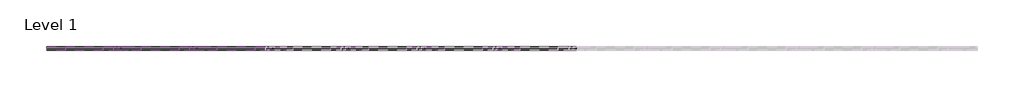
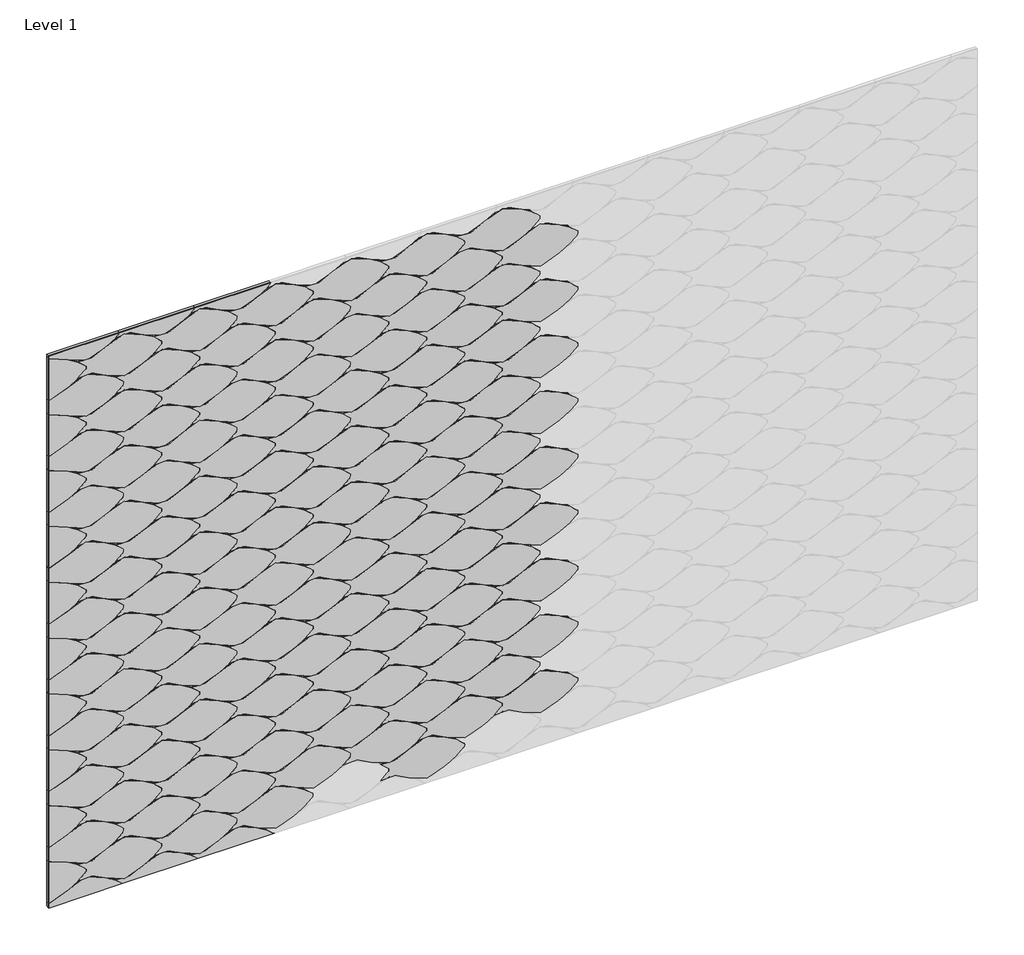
# One storey, part 1 of 2: 137 proxies.
"""IFC4 building model written with IfcOpenShell, lengths in millimetres."""

from ifc_helpers import new_model, si_unit, origin, place, context, project, spatial, transform, mapped, element, save
from components import specialty_equipment_90dfa3fd, specialty_equipment_1d68d449, specialty_equipment_25086a34, specialty_equipment_1cb976ee, specialty_equipment_e357aaf0, specialty_equipment_c87418b1, specialty_equipment_bcb07fab, specialty_equipment_795359a8, specialty_equipment_e3a5d67b, specialty_equipment_ba63f378

model = new_model("IFC4")

# Units and contexts
model_context = context("Model", 3, world=origin())
ifc_project = project(units=[si_unit("LENGTHUNIT", "METRE", prefix="MILLI")], contexts=[model_context])

# Site, building, storey
site = spatial("IfcSite", under=ifc_project)
building = spatial("IfcBuilding", under=site)
storey = spatial("IfcBuildingStorey", under=building, Name="Level 1", Elevation=0.0)

# Proxies
placement = place(None, origin())
specialty_equipment_shape = specialty_equipment_90dfa3fd(model_context)
element("IfcBuildingElementProxy", 1, Name="FilzFelt_Fish_Block : Fish Block", ObjectType="FilzFelt_Fish_Block : Fish Block", at=placement, inside=storey, context=model_context, shape_type="MappedRepresentation", body=[
    mapped(specialty_equipment_shape, transform((21496.6705507, 4010.4660665, 3013.3456503), x_axis=(0.0, 0.0, -1.0), y_axis=(1.0, 0.0, 0.0), z_axis=(0.0, -1.0, 0.0))),
])
element("IfcBuildingElementProxy", 2, Name="FilzFelt_Fish_Block : Fish Block", ObjectType="FilzFelt_Fish_Block : Fish Block", at=placement, inside=storey, context=model_context, shape_type="MappedRepresentation", body=[
    mapped(specialty_equipment_shape, transform((21222.2224976, 4010.4660665, 3013.3456503), x_axis=(0.0, 0.0, -1.0), y_axis=(1.0, 0.0, 0.0), z_axis=(0.0, -1.0, 0.0))),
])
element("IfcBuildingElementProxy", 3, Name="FilzFelt_Fish_Block : Fish Block", ObjectType="FilzFelt_Fish_Block : Fish Block", at=placement, inside=storey, context=model_context, shape_type="MappedRepresentation", body=[
    mapped(specialty_equipment_shape, transform((21359.4465242, 4010.4660665, 2906.2483588), x_axis=(0.0, 0.0, -1.0), y_axis=(1.0, 0.0, 0.0), z_axis=(0.0, -1.0, 0.0))),
])
element("IfcBuildingElementProxy", 4, Name="FilzFelt_Fish_Block : Fish Block", ObjectType="FilzFelt_Fish_Block : Fish Block", at=placement, inside=storey, context=model_context, shape_type="MappedRepresentation", body=[
    mapped(specialty_equipment_shape, transform((21771.1186039, 4010.4660665, 2370.7619017), x_axis=(0.0, 0.0, -1.0), y_axis=(1.0, 0.0, 0.0), z_axis=(0.0, -1.0, 0.0))),
])
element("IfcBuildingElementProxy", 5, Name="FilzFelt_Fish_Block : Fish Block", ObjectType="FilzFelt_Fish_Block : Fish Block", at=placement, inside=storey, context=model_context, shape_type="MappedRepresentation", body=[
    mapped(specialty_equipment_shape, transform((21908.3426305, 4010.4660665, 2477.8591932), x_axis=(0.0, 0.0, -1.0), y_axis=(1.0, 0.0, 0.0), z_axis=(0.0, -1.0, 0.0))),
])
element("IfcBuildingElementProxy", 6, Name="FilzFelt_Fish_Block : Fish Block", ObjectType="FilzFelt_Fish_Block : Fish Block", at=placement, inside=storey, context=model_context, shape_type="MappedRepresentation", body=[
    mapped(specialty_equipment_shape, transform((20536.1023647, 4010.4660665, 2477.8591932), x_axis=(0.0, 0.0, -1.0), y_axis=(1.0, 0.0, 0.0), z_axis=(0.0, -1.0, 0.0))),
])
element("IfcBuildingElementProxy", 7, Name="FilzFelt_Fish_Block : Fish Block", ObjectType="FilzFelt_Fish_Block : Fish Block", at=placement, inside=storey, context=model_context, shape_type="MappedRepresentation", body=[
    mapped(specialty_equipment_shape, transform((21496.6705507, 4010.4660665, 1513.9835704), x_axis=(0.0, 0.0, -1.0), y_axis=(1.0, 0.0, 0.0), z_axis=(0.0, -1.0, 0.0))),
])
element("IfcBuildingElementProxy", 8, Name="FilzFelt_Fish_Block : Fish Block", ObjectType="FilzFelt_Fish_Block : Fish Block", at=placement, inside=storey, context=model_context, shape_type="MappedRepresentation", body=[
    mapped(specialty_equipment_shape, transform((21222.2224976, 4010.4660665, 1513.9835704), x_axis=(0.0, 0.0, -1.0), y_axis=(1.0, 0.0, 0.0), z_axis=(0.0, -1.0, 0.0))),
])
element("IfcBuildingElementProxy", 9, Name="FilzFelt_Fish_Block : Fish Block", ObjectType="FilzFelt_Fish_Block : Fish Block", at=placement, inside=storey, context=model_context, shape_type="MappedRepresentation", body=[
    mapped(specialty_equipment_shape, transform((20947.7744444, 4010.4660665, 1513.9835704), x_axis=(0.0, 0.0, -1.0), y_axis=(1.0, 0.0, 0.0), z_axis=(0.0, -1.0, 0.0))),
])
element("IfcBuildingElementProxy", 10, Name="FilzFelt_Fish_Block : Fish Block", ObjectType="FilzFelt_Fish_Block : Fish Block", at=placement, inside=storey, context=model_context, shape_type="MappedRepresentation", body=[
    mapped(specialty_equipment_shape, transform((21084.998471, 4010.4660665, 2049.4700275), x_axis=(0.0, 0.0, -1.0), y_axis=(1.0, 0.0, 0.0), z_axis=(0.0, -1.0, 0.0))),
])
element("IfcBuildingElementProxy", 11, Name="FilzFelt_Fish_Block : Fish Block", ObjectType="FilzFelt_Fish_Block : Fish Block", at=placement, inside=storey, context=model_context, shape_type="MappedRepresentation", body=[
    mapped(specialty_equipment_shape, transform((20810.5504178, 4010.4660665, 2049.4700275), x_axis=(0.0, 0.0, -1.0), y_axis=(1.0, 0.0, 0.0), z_axis=(0.0, -1.0, 0.0))),
])
element("IfcBuildingElementProxy", 12, Name="FilzFelt_Fish_Block : Fish Block", ObjectType="FilzFelt_Fish_Block : Fish Block", at=placement, inside=storey, context=model_context, shape_type="MappedRepresentation", body=[
    mapped(specialty_equipment_shape, transform((20536.1023647, 4010.4660665, 2049.4700275), x_axis=(0.0, 0.0, -1.0), y_axis=(1.0, 0.0, 0.0), z_axis=(0.0, -1.0, 0.0))),
])
element("IfcBuildingElementProxy", 13, Name="FilzFelt_Fish_Block : Fish Block", ObjectType="FilzFelt_Fish_Block : Fish Block", at=placement, inside=storey, context=model_context, shape_type="MappedRepresentation", body=[
    mapped(specialty_equipment_shape, transform((21633.8945773, 4010.4660665, 1192.6916961), x_axis=(0.0, 0.0, -1.0), y_axis=(1.0, 0.0, 0.0), z_axis=(0.0, -1.0, 0.0))),
])
element("IfcBuildingElementProxy", 14, Name="FilzFelt_Fish_Block : Fish Block", ObjectType="FilzFelt_Fish_Block : Fish Block", at=placement, inside=storey, context=model_context, shape_type="MappedRepresentation", body=[
    mapped(specialty_equipment_shape, transform((21359.4465242, 4010.4660665, 1192.6916961), x_axis=(0.0, 0.0, -1.0), y_axis=(1.0, 0.0, 0.0), z_axis=(0.0, -1.0, 0.0))),
])
specialty_equipment_2_shape = specialty_equipment_1d68d449(model_context)
element("IfcBuildingElementProxy", 15, Name="FilzFelt_Fish_Block : Fish Block", ObjectType="FilzFelt_Fish_Block : Fish Block", at=placement, inside=storey, context=model_context, shape_type="MappedRepresentation", body=[
    mapped(specialty_equipment_2_shape, transform((21222.2224976, 4010.4660665, 2799.1510674), x_axis=(0.0, 0.0, 1.0), y_axis=(-1.0, 0.0, 0.0), z_axis=(0.0, -1.0, 0.0))),
])
element("IfcBuildingElementProxy", 16, Name="FilzFelt_Fish_Block : Fish Block", ObjectType="FilzFelt_Fish_Block : Fish Block", at=placement, inside=storey, context=model_context, shape_type="MappedRepresentation", body=[
    mapped(specialty_equipment_2_shape, transform((20398.8783381, 4010.4660665, 2584.9564846), x_axis=(0.0, 0.0, 1.0), y_axis=(-1.0, 0.0, 0.0), z_axis=(0.0, -1.0, 0.0))),
])
element("IfcBuildingElementProxy", 17, Name="FilzFelt_Fish_Block : Fish Block", ObjectType="FilzFelt_Fish_Block : Fish Block", at=placement, inside=storey, context=model_context, shape_type="MappedRepresentation", body=[
    mapped(specialty_equipment_2_shape, transform((20673.3263913, 4010.4660665, 2584.9564846), x_axis=(0.0, 0.0, 1.0), y_axis=(-1.0, 0.0, 0.0), z_axis=(0.0, -1.0, 0.0))),
])
element("IfcBuildingElementProxy", 18, Name="FilzFelt_Fish_Block : Fish Block", ObjectType="FilzFelt_Fish_Block : Fish Block", at=placement, inside=storey, context=model_context, shape_type="MappedRepresentation", body=[
    mapped(specialty_equipment_2_shape, transform((21359.4465242, 4010.4660665, 2692.053776), x_axis=(0.0, 0.0, 1.0), y_axis=(-1.0, 0.0, 0.0), z_axis=(0.0, -1.0, 0.0))),
])
element("IfcBuildingElementProxy", 19, Name="FilzFelt_Fish_Block : Fish Block", ObjectType="FilzFelt_Fish_Block : Fish Block", at=placement, inside=storey, context=model_context, shape_type="MappedRepresentation", body=[
    mapped(specialty_equipment_2_shape, transform((21771.1186039, 4010.4660665, 2156.5673189), x_axis=(0.0, 0.0, 1.0), y_axis=(-1.0, 0.0, 0.0), z_axis=(0.0, -1.0, 0.0))),
])
element("IfcBuildingElementProxy", 20, Name="FilzFelt_Fish_Block : Fish Block", ObjectType="FilzFelt_Fish_Block : Fish Block", at=placement, inside=storey, context=model_context, shape_type="MappedRepresentation", body=[
    mapped(specialty_equipment_2_shape, transform((20947.7744444, 4010.4660665, 2156.5673189), x_axis=(0.0, 0.0, 1.0), y_axis=(-1.0, 0.0, 0.0), z_axis=(0.0, -1.0, 0.0))),
])
element("IfcBuildingElementProxy", 21, Name="FilzFelt_Fish_Block : Fish Block", ObjectType="FilzFelt_Fish_Block : Fish Block", at=placement, inside=storey, context=model_context, shape_type="MappedRepresentation", body=[
    mapped(specialty_equipment_2_shape, transform((21908.3426305, 4010.4660665, 2263.6646103), x_axis=(0.0, 0.0, 1.0), y_axis=(-1.0, 0.0, 0.0), z_axis=(0.0, -1.0, 0.0))),
])
element("IfcBuildingElementProxy", 22, Name="FilzFelt_Fish_Block : Fish Block", ObjectType="FilzFelt_Fish_Block : Fish Block", at=placement, inside=storey, context=model_context, shape_type="MappedRepresentation", body=[
    mapped(specialty_equipment_2_shape, transform((21633.8945773, 4010.4660665, 2263.6646103), x_axis=(0.0, 0.0, 1.0), y_axis=(-1.0, 0.0, 0.0), z_axis=(0.0, -1.0, 0.0))),
])
element("IfcBuildingElementProxy", 23, Name="FilzFelt_Fish_Block : Fish Block", ObjectType="FilzFelt_Fish_Block : Fish Block", at=placement, inside=storey, context=model_context, shape_type="MappedRepresentation", body=[
    mapped(specialty_equipment_2_shape, transform((21084.998471, 4010.4660665, 2263.6646103), x_axis=(0.0, 0.0, 1.0), y_axis=(-1.0, 0.0, 0.0), z_axis=(0.0, -1.0, 0.0))),
])
element("IfcBuildingElementProxy", 24, Name="FilzFelt_Fish_Block : Fish Block", ObjectType="FilzFelt_Fish_Block : Fish Block", at=placement, inside=storey, context=model_context, shape_type="MappedRepresentation", body=[
    mapped(specialty_equipment_2_shape, transform((21496.6705507, 4010.4660665, 1299.7889875), x_axis=(0.0, 0.0, 1.0), y_axis=(-1.0, 0.0, 0.0), z_axis=(0.0, -1.0, 0.0))),
])
element("IfcBuildingElementProxy", 25, Name="FilzFelt_Fish_Block : Fish Block", ObjectType="FilzFelt_Fish_Block : Fish Block", at=placement, inside=storey, context=model_context, shape_type="MappedRepresentation", body=[
    mapped(specialty_equipment_2_shape, transform((21633.8945773, 4010.4660665, 1406.886279), x_axis=(0.0, 0.0, 1.0), y_axis=(-1.0, 0.0, 0.0), z_axis=(0.0, -1.0, 0.0))),
])
element("IfcBuildingElementProxy", 26, Name="FilzFelt_Fish_Block : Fish Block", ObjectType="FilzFelt_Fish_Block : Fish Block", at=placement, inside=storey, context=model_context, shape_type="MappedRepresentation", body=[
    mapped(specialty_equipment_2_shape, transform((21359.4465242, 4010.4660665, 1406.886279), x_axis=(0.0, 0.0, 1.0), y_axis=(-1.0, 0.0, 0.0), z_axis=(0.0, -1.0, 0.0))),
])
element("IfcBuildingElementProxy", 27, Name="FilzFelt_Fish_Block : Fish Block", ObjectType="FilzFelt_Fish_Block : Fish Block", at=placement, inside=storey, context=model_context, shape_type="MappedRepresentation", body=[
    mapped(specialty_equipment_2_shape, transform((20810.5504178, 4010.4660665, 1406.886279), x_axis=(0.0, 0.0, 1.0), y_axis=(-1.0, 0.0, 0.0), z_axis=(0.0, -1.0, 0.0))),
])
element("IfcBuildingElementProxy", 28, Name="FilzFelt_Fish_Block : Fish Block", ObjectType="FilzFelt_Fish_Block : Fish Block", at=placement, inside=storey, context=model_context, shape_type="MappedRepresentation", body=[
    mapped(specialty_equipment_2_shape, transform((20947.7744444, 4010.4660665, 1942.3727361), x_axis=(0.0, 0.0, 1.0), y_axis=(-1.0, 0.0, 0.0), z_axis=(0.0, -1.0, 0.0))),
])
element("IfcBuildingElementProxy", 29, Name="FilzFelt_Fish_Block : Fish Block", ObjectType="FilzFelt_Fish_Block : Fish Block", at=placement, inside=storey, context=model_context, shape_type="MappedRepresentation", body=[
    mapped(specialty_equipment_2_shape, transform((20673.3263913, 4010.4660665, 1942.3727361), x_axis=(0.0, 0.0, 1.0), y_axis=(-1.0, 0.0, 0.0), z_axis=(0.0, -1.0, 0.0))),
])
element("IfcBuildingElementProxy", 30, Name="FilzFelt_Fish_Block : Fish Block", ObjectType="FilzFelt_Fish_Block : Fish Block", at=placement, inside=storey, context=model_context, shape_type="MappedRepresentation", body=[
    mapped(specialty_equipment_2_shape, transform((21496.6705507, 4010.4660665, 1085.5944047), x_axis=(0.0, 0.0, 1.0), y_axis=(-1.0, 0.0, 0.0), z_axis=(0.0, -1.0, 0.0))),
])
specialty_equipment_3_shape = specialty_equipment_25086a34(model_context)
element("IfcBuildingElementProxy", 31, Name="FilzFelt_Fish_Block : Fish Block", ObjectType="FilzFelt_Fish_Block : Fish Block", at=placement, inside=storey, context=model_context, shape_type="MappedRepresentation", body=[
    mapped(specialty_equipment_3_shape, transform((20124.430285, 4010.4660665, 1942.3727361), x_axis=(0.0, 0.0, 1.0), y_axis=(-1.0, 0.0, 0.0), z_axis=(0.0, -1.0, 0.0))),
])
specialty_equipment_4_shape = specialty_equipment_1cb976ee(model_context)
element("IfcBuildingElementProxy", 32, Name="FilzFelt_Fish_Block : Fish Block", ObjectType="FilzFelt_Fish_Block : Fish Block", at=placement, inside=storey, context=model_context, shape_type="MappedRepresentation", body=[
    mapped(specialty_equipment_4_shape, transform((20124.430285, 4010.4660665, 1513.9835704), x_axis=(0.0, 0.0, -1.0), y_axis=(1.0, 0.0, 0.0), z_axis=(0.0, -1.0, 0.0))),
])
element("IfcBuildingElementProxy", 33, Name="FilzFelt_Fish_Block : Fish Block", ObjectType="FilzFelt_Fish_Block : Fish Block", at=placement, inside=storey, context=model_context, shape_type="MappedRepresentation", body=[
    mapped(specialty_equipment_4_shape, transform((20124.430285, 4010.4660665, 1728.1781532), x_axis=(0.0, 0.0, -1.0), y_axis=(1.0, 0.0, 0.0), z_axis=(0.0, -1.0, 0.0))),
])
specialty_equipment_5_shape = specialty_equipment_e357aaf0(model_context)
element("IfcBuildingElementProxy", 34, Name="FilzFelt_Fish_Block : Fish Block", ObjectType="FilzFelt_Fish_Block : Fish Block", at=placement, inside=storey, context=model_context, shape_type="MappedRepresentation", body=[
    mapped(specialty_equipment_5_shape, transform((20261.6543115, 4010.4660665, 1621.0808618), x_axis=(0.0, 0.0, -1.0), y_axis=(1.0, 0.0, 0.0), z_axis=(0.0, -1.0, 0.0))),
])
specialty_equipment_6_shape = specialty_equipment_c87418b1(model_context)
element("IfcBuildingElementProxy", 35, Name="FilzFelt_Fish_Block : Fish Block", ObjectType="FilzFelt_Fish_Block : Fish Block", at=placement, inside=storey, context=model_context, shape_type="MappedRepresentation", body=[
    mapped(specialty_equipment_6_shape, transform((20261.6543115, 4010.4660665, 2692.053776), x_axis=(0.0, 0.0, 1.0), y_axis=(-1.0, 0.0, 0.0), z_axis=(0.0, -1.0, 0.0))),
])
element("IfcBuildingElementProxy", 36, Name="FilzFelt_Fish_Block : Fish Block", ObjectType="FilzFelt_Fish_Block : Fish Block", at=placement, inside=storey, context=model_context, shape_type="MappedRepresentation", body=[
    mapped(specialty_equipment_shape, transform((20398.8783381, 4010.4660665, 3013.3456503), x_axis=(0.0, 0.0, -1.0), y_axis=(1.0, 0.0, 0.0), z_axis=(0.0, -1.0, 0.0))),
])
element("IfcBuildingElementProxy", 37, Name="FilzFelt_Fish_Block : Fish Block", ObjectType="FilzFelt_Fish_Block : Fish Block", at=placement, inside=storey, context=model_context, shape_type="MappedRepresentation", body=[
    mapped(specialty_equipment_shape, transform((20673.3263913, 4010.4660665, 3013.3456503), x_axis=(0.0, 0.0, -1.0), y_axis=(1.0, 0.0, 0.0), z_axis=(0.0, -1.0, 0.0))),
])
element("IfcBuildingElementProxy", 38, Name="FilzFelt_Fish_Block : Fish Block", ObjectType="FilzFelt_Fish_Block : Fish Block", at=placement, inside=storey, context=model_context, shape_type="MappedRepresentation", body=[
    mapped(specialty_equipment_shape, transform((21633.8945773, 4010.4660665, 2906.2483588), x_axis=(0.0, 0.0, -1.0), y_axis=(1.0, 0.0, 0.0), z_axis=(0.0, -1.0, 0.0))),
])
element("IfcBuildingElementProxy", 39, Name="FilzFelt_Fish_Block : Fish Block", ObjectType="FilzFelt_Fish_Block : Fish Block", at=placement, inside=storey, context=model_context, shape_type="MappedRepresentation", body=[
    mapped(specialty_equipment_shape, transform((21222.2224976, 4010.4660665, 2370.7619017), x_axis=(0.0, 0.0, -1.0), y_axis=(1.0, 0.0, 0.0), z_axis=(0.0, -1.0, 0.0))),
])
element("IfcBuildingElementProxy", 40, Name="FilzFelt_Fish_Block : Fish Block", ObjectType="FilzFelt_Fish_Block : Fish Block", at=placement, inside=storey, context=model_context, shape_type="MappedRepresentation", body=[
    mapped(specialty_equipment_shape, transform((20398.8783381, 4010.4660665, 2370.7619017), x_axis=(0.0, 0.0, -1.0), y_axis=(1.0, 0.0, 0.0), z_axis=(0.0, -1.0, 0.0))),
])
element("IfcBuildingElementProxy", 41, Name="FilzFelt_Fish_Block : Fish Block", ObjectType="FilzFelt_Fish_Block : Fish Block", at=placement, inside=storey, context=model_context, shape_type="MappedRepresentation", body=[
    mapped(specialty_equipment_shape, transform((20947.7744444, 4010.4660665, 2370.7619017), x_axis=(0.0, 0.0, -1.0), y_axis=(1.0, 0.0, 0.0), z_axis=(0.0, -1.0, 0.0))),
])
element("IfcBuildingElementProxy", 42, Name="FilzFelt_Fish_Block : Fish Block", ObjectType="FilzFelt_Fish_Block : Fish Block", at=placement, inside=storey, context=model_context, shape_type="MappedRepresentation", body=[
    mapped(specialty_equipment_shape, transform((21084.998471, 4010.4660665, 2477.8591932), x_axis=(0.0, 0.0, -1.0), y_axis=(1.0, 0.0, 0.0), z_axis=(0.0, -1.0, 0.0))),
])
element("IfcBuildingElementProxy", 43, Name="FilzFelt_Fish_Block : Fish Block", ObjectType="FilzFelt_Fish_Block : Fish Block", at=placement, inside=storey, context=model_context, shape_type="MappedRepresentation", body=[
    mapped(specialty_equipment_shape, transform((21771.1186039, 4010.4660665, 1513.9835704), x_axis=(0.0, 0.0, -1.0), y_axis=(1.0, 0.0, 0.0), z_axis=(0.0, -1.0, 0.0))),
])
element("IfcBuildingElementProxy", 44, Name="FilzFelt_Fish_Block : Fish Block", ObjectType="FilzFelt_Fish_Block : Fish Block", at=placement, inside=storey, context=model_context, shape_type="MappedRepresentation", body=[
    mapped(specialty_equipment_shape, transform((21496.6705507, 4010.4660665, 1728.1781532), x_axis=(0.0, 0.0, -1.0), y_axis=(1.0, 0.0, 0.0), z_axis=(0.0, -1.0, 0.0))),
])
element("IfcBuildingElementProxy", 45, Name="FilzFelt_Fish_Block : Fish Block", ObjectType="FilzFelt_Fish_Block : Fish Block", at=placement, inside=storey, context=model_context, shape_type="MappedRepresentation", body=[
    mapped(specialty_equipment_shape, transform((20398.8783381, 4010.4660665, 1728.1781532), x_axis=(0.0, 0.0, -1.0), y_axis=(1.0, 0.0, 0.0), z_axis=(0.0, -1.0, 0.0))),
])
element("IfcBuildingElementProxy", 46, Name="FilzFelt_Fish_Block : Fish Block", ObjectType="FilzFelt_Fish_Block : Fish Block", at=placement, inside=storey, context=model_context, shape_type="MappedRepresentation", body=[
    mapped(specialty_equipment_shape, transform((20947.7744444, 4010.4660665, 1728.1781532), x_axis=(0.0, 0.0, -1.0), y_axis=(1.0, 0.0, 0.0), z_axis=(0.0, -1.0, 0.0))),
])
element("IfcBuildingElementProxy", 47, Name="FilzFelt_Fish_Block : Fish Block", ObjectType="FilzFelt_Fish_Block : Fish Block", at=placement, inside=storey, context=model_context, shape_type="MappedRepresentation", body=[
    mapped(specialty_equipment_shape, transform((20673.3263913, 4010.4660665, 1728.1781532), x_axis=(0.0, 0.0, -1.0), y_axis=(1.0, 0.0, 0.0), z_axis=(0.0, -1.0, 0.0))),
])
element("IfcBuildingElementProxy", 48, Name="FilzFelt_Fish_Block : Fish Block", ObjectType="FilzFelt_Fish_Block : Fish Block", at=placement, inside=storey, context=model_context, shape_type="MappedRepresentation", body=[
    mapped(specialty_equipment_shape, transform((21908.3426305, 4010.4660665, 1621.0808618), x_axis=(0.0, 0.0, -1.0), y_axis=(1.0, 0.0, 0.0), z_axis=(0.0, -1.0, 0.0))),
])
element("IfcBuildingElementProxy", 49, Name="FilzFelt_Fish_Block : Fish Block", ObjectType="FilzFelt_Fish_Block : Fish Block", at=placement, inside=storey, context=model_context, shape_type="MappedRepresentation", body=[
    mapped(specialty_equipment_shape, transform((21633.8945773, 4010.4660665, 1621.0808618), x_axis=(0.0, 0.0, -1.0), y_axis=(1.0, 0.0, 0.0), z_axis=(0.0, -1.0, 0.0))),
])
element("IfcBuildingElementProxy", 50, Name="FilzFelt_Fish_Block : Fish Block", ObjectType="FilzFelt_Fish_Block : Fish Block", at=placement, inside=storey, context=model_context, shape_type="MappedRepresentation", body=[
    mapped(specialty_equipment_shape, transform((21084.998471, 4010.4660665, 1621.0808618), x_axis=(0.0, 0.0, -1.0), y_axis=(1.0, 0.0, 0.0), z_axis=(0.0, -1.0, 0.0))),
])
element("IfcBuildingElementProxy", 51, Name="FilzFelt_Fish_Block : Fish Block", ObjectType="FilzFelt_Fish_Block : Fish Block", at=placement, inside=storey, context=model_context, shape_type="MappedRepresentation", body=[
    mapped(specialty_equipment_shape, transform((20810.5504178, 4010.4660665, 1621.0808618), x_axis=(0.0, 0.0, -1.0), y_axis=(1.0, 0.0, 0.0), z_axis=(0.0, -1.0, 0.0))),
])
element("IfcBuildingElementProxy", 52, Name="FilzFelt_Fish_Block : Fish Block", ObjectType="FilzFelt_Fish_Block : Fish Block", at=placement, inside=storey, context=model_context, shape_type="MappedRepresentation", body=[
    mapped(specialty_equipment_shape, transform((21908.3426305, 4010.4660665, 1192.6916961), x_axis=(0.0, 0.0, -1.0), y_axis=(1.0, 0.0, 0.0), z_axis=(0.0, -1.0, 0.0))),
])
element("IfcBuildingElementProxy", 53, Name="FilzFelt_Fish_Block : Fish Block", ObjectType="FilzFelt_Fish_Block : Fish Block", at=placement, inside=storey, context=model_context, shape_type="MappedRepresentation", body=[
    mapped(specialty_equipment_shape, transform((20536.1023647, 4010.4660665, 1192.6916961), x_axis=(0.0, 0.0, -1.0), y_axis=(1.0, 0.0, 0.0), z_axis=(0.0, -1.0, 0.0))),
])
element("IfcBuildingElementProxy", 54, Name="FilzFelt_Fish_Block : Fish Block", ObjectType="FilzFelt_Fish_Block : Fish Block", at=placement, inside=storey, context=model_context, shape_type="MappedRepresentation", body=[
    mapped(specialty_equipment_4_shape, transform((20124.430285, 4010.4660665, 3013.3456503), x_axis=(0.0, 0.0, -1.0), y_axis=(1.0, 0.0, 0.0), z_axis=(0.0, -1.0, 0.0))),
])
element("IfcBuildingElementProxy", 55, Name="FilzFelt_Fish_Block : Fish Block", ObjectType="FilzFelt_Fish_Block : Fish Block", at=placement, inside=storey, context=model_context, shape_type="MappedRepresentation", body=[
    mapped(specialty_equipment_4_shape, transform((20124.430285, 4010.4660665, 2370.7619017), x_axis=(0.0, 0.0, -1.0), y_axis=(1.0, 0.0, 0.0), z_axis=(0.0, -1.0, 0.0))),
])
element("IfcBuildingElementProxy", 56, Name="FilzFelt_Fish_Block : Fish Block", ObjectType="FilzFelt_Fish_Block : Fish Block", at=placement, inside=storey, context=model_context, shape_type="MappedRepresentation", body=[
    mapped(specialty_equipment_5_shape, transform((20261.6543115, 4010.4660665, 2906.2483588), x_axis=(0.0, 0.0, -1.0), y_axis=(1.0, 0.0, 0.0), z_axis=(0.0, -1.0, 0.0))),
])
element("IfcBuildingElementProxy", 57, Name="FilzFelt_Fish_Block : Fish Block", ObjectType="FilzFelt_Fish_Block : Fish Block", at=placement, inside=storey, context=model_context, shape_type="MappedRepresentation", body=[
    mapped(specialty_equipment_5_shape, transform((20261.6543115, 4010.4660665, 2477.8591932), x_axis=(0.0, 0.0, -1.0), y_axis=(1.0, 0.0, 0.0), z_axis=(0.0, -1.0, 0.0))),
])
element("IfcBuildingElementProxy", 58, Name="FilzFelt_Fish_Block : Fish Block", ObjectType="FilzFelt_Fish_Block : Fish Block", at=placement, inside=storey, context=model_context, shape_type="MappedRepresentation", body=[
    mapped(specialty_equipment_5_shape, transform((20261.6543115, 4010.4660665, 1192.6916961), x_axis=(0.0, 0.0, -1.0), y_axis=(1.0, 0.0, 0.0), z_axis=(0.0, -1.0, 0.0))),
])
specialty_equipment_7_shape = specialty_equipment_bcb07fab(model_context)
element("IfcBuildingElementProxy", 59, Name="FilzFelt_Fish_Block : Fish Block", ObjectType="FilzFelt_Fish_Block : Fish Block", at=placement, inside=storey, context=model_context, shape_type="MappedRepresentation", body=[
    mapped(specialty_equipment_7_shape, transform((20536.1023647, 4010.4660665, 3120.4429417), x_axis=(0.0, 0.0, -1.0), y_axis=(1.0, 0.0, 0.0), z_axis=(0.0, -1.0, 0.0))),
])
specialty_equipment_8_shape = specialty_equipment_795359a8(model_context)
element("IfcBuildingElementProxy", 60, Name="FilzFelt_Fish_Block : Fish Block", ObjectType="FilzFelt_Fish_Block : Fish Block", at=placement, inside=storey, context=model_context, shape_type="MappedRepresentation", body=[
    mapped(specialty_equipment_8_shape, transform((20261.6543115, 4010.4660665, 3120.4429417), x_axis=(0.0, 0.0, -1.0), y_axis=(1.0, 0.0, 0.0), z_axis=(0.0, -1.0, 0.0))),
])
element("IfcBuildingElementProxy", 61, Name="FilzFelt_Fish_Block : Fish Block", ObjectType="FilzFelt_Fish_Block : Fish Block", at=placement, inside=storey, context=model_context, shape_type="MappedRepresentation", body=[
    mapped(specialty_equipment_shape, transform((20947.7744444, 4010.4660665, 3013.3456503), x_axis=(0.0, 0.0, -1.0), y_axis=(1.0, 0.0, 0.0), z_axis=(0.0, -1.0, 0.0))),
])
element("IfcBuildingElementProxy", 62, Name="FilzFelt_Fish_Block : Fish Block", ObjectType="FilzFelt_Fish_Block : Fish Block", at=placement, inside=storey, context=model_context, shape_type="MappedRepresentation", body=[
    mapped(specialty_equipment_shape, transform((21084.998471, 4010.4660665, 2906.2483588), x_axis=(0.0, 0.0, -1.0), y_axis=(1.0, 0.0, 0.0), z_axis=(0.0, -1.0, 0.0))),
])
element("IfcBuildingElementProxy", 63, Name="FilzFelt_Fish_Block : Fish Block", ObjectType="FilzFelt_Fish_Block : Fish Block", at=placement, inside=storey, context=model_context, shape_type="MappedRepresentation", body=[
    mapped(specialty_equipment_shape, transform((20810.5504178, 4010.4660665, 2906.2483588), x_axis=(0.0, 0.0, -1.0), y_axis=(1.0, 0.0, 0.0), z_axis=(0.0, -1.0, 0.0))),
])
element("IfcBuildingElementProxy", 64, Name="FilzFelt_Fish_Block : Fish Block", ObjectType="FilzFelt_Fish_Block : Fish Block", at=placement, inside=storey, context=model_context, shape_type="MappedRepresentation", body=[
    mapped(specialty_equipment_shape, transform((21496.6705507, 4010.4660665, 2370.7619017), x_axis=(0.0, 0.0, -1.0), y_axis=(1.0, 0.0, 0.0), z_axis=(0.0, -1.0, 0.0))),
])
element("IfcBuildingElementProxy", 65, Name="FilzFelt_Fish_Block : Fish Block", ObjectType="FilzFelt_Fish_Block : Fish Block", at=placement, inside=storey, context=model_context, shape_type="MappedRepresentation", body=[
    mapped(specialty_equipment_shape, transform((20673.3263913, 4010.4660665, 2370.7619017), x_axis=(0.0, 0.0, -1.0), y_axis=(1.0, 0.0, 0.0), z_axis=(0.0, -1.0, 0.0))),
])
element("IfcBuildingElementProxy", 66, Name="FilzFelt_Fish_Block : Fish Block", ObjectType="FilzFelt_Fish_Block : Fish Block", at=placement, inside=storey, context=model_context, shape_type="MappedRepresentation", body=[
    mapped(specialty_equipment_shape, transform((21633.8945773, 4010.4660665, 2477.8591932), x_axis=(0.0, 0.0, -1.0), y_axis=(1.0, 0.0, 0.0), z_axis=(0.0, -1.0, 0.0))),
])
element("IfcBuildingElementProxy", 67, Name="FilzFelt_Fish_Block : Fish Block", ObjectType="FilzFelt_Fish_Block : Fish Block", at=placement, inside=storey, context=model_context, shape_type="MappedRepresentation", body=[
    mapped(specialty_equipment_shape, transform((21359.4465242, 4010.4660665, 2477.8591932), x_axis=(0.0, 0.0, -1.0), y_axis=(1.0, 0.0, 0.0), z_axis=(0.0, -1.0, 0.0))),
])
element("IfcBuildingElementProxy", 68, Name="FilzFelt_Fish_Block : Fish Block", ObjectType="FilzFelt_Fish_Block : Fish Block", at=placement, inside=storey, context=model_context, shape_type="MappedRepresentation", body=[
    mapped(specialty_equipment_shape, transform((20810.5504178, 4010.4660665, 2477.8591932), x_axis=(0.0, 0.0, -1.0), y_axis=(1.0, 0.0, 0.0), z_axis=(0.0, -1.0, 0.0))),
])
element("IfcBuildingElementProxy", 69, Name="FilzFelt_Fish_Block : Fish Block", ObjectType="FilzFelt_Fish_Block : Fish Block", at=placement, inside=storey, context=model_context, shape_type="MappedRepresentation", body=[
    mapped(specialty_equipment_shape, transform((20398.8783381, 4010.4660665, 1513.9835704), x_axis=(0.0, 0.0, -1.0), y_axis=(1.0, 0.0, 0.0), z_axis=(0.0, -1.0, 0.0))),
])
element("IfcBuildingElementProxy", 70, Name="FilzFelt_Fish_Block : Fish Block", ObjectType="FilzFelt_Fish_Block : Fish Block", at=placement, inside=storey, context=model_context, shape_type="MappedRepresentation", body=[
    mapped(specialty_equipment_shape, transform((20673.3263913, 4010.4660665, 1513.9835704), x_axis=(0.0, 0.0, -1.0), y_axis=(1.0, 0.0, 0.0), z_axis=(0.0, -1.0, 0.0))),
])
element("IfcBuildingElementProxy", 71, Name="FilzFelt_Fish_Block : Fish Block", ObjectType="FilzFelt_Fish_Block : Fish Block", at=placement, inside=storey, context=model_context, shape_type="MappedRepresentation", body=[
    mapped(specialty_equipment_shape, transform((21222.2224976, 4010.4660665, 1728.1781532), x_axis=(0.0, 0.0, -1.0), y_axis=(1.0, 0.0, 0.0), z_axis=(0.0, -1.0, 0.0))),
])
element("IfcBuildingElementProxy", 72, Name="FilzFelt_Fish_Block : Fish Block", ObjectType="FilzFelt_Fish_Block : Fish Block", at=placement, inside=storey, context=model_context, shape_type="MappedRepresentation", body=[
    mapped(specialty_equipment_shape, transform((21771.1186039, 4010.4660665, 1728.1781532), x_axis=(0.0, 0.0, -1.0), y_axis=(1.0, 0.0, 0.0), z_axis=(0.0, -1.0, 0.0))),
])
element("IfcBuildingElementProxy", 73, Name="FilzFelt_Fish_Block : Fish Block", ObjectType="FilzFelt_Fish_Block : Fish Block", at=placement, inside=storey, context=model_context, shape_type="MappedRepresentation", body=[
    mapped(specialty_equipment_shape, transform((21359.4465242, 4010.4660665, 1621.0808618), x_axis=(0.0, 0.0, -1.0), y_axis=(1.0, 0.0, 0.0), z_axis=(0.0, -1.0, 0.0))),
])
element("IfcBuildingElementProxy", 74, Name="FilzFelt_Fish_Block : Fish Block", ObjectType="FilzFelt_Fish_Block : Fish Block", at=placement, inside=storey, context=model_context, shape_type="MappedRepresentation", body=[
    mapped(specialty_equipment_shape, transform((20536.1023647, 4010.4660665, 1621.0808618), x_axis=(0.0, 0.0, -1.0), y_axis=(1.0, 0.0, 0.0), z_axis=(0.0, -1.0, 0.0))),
])
element("IfcBuildingElementProxy", 75, Name="FilzFelt_Fish_Block : Fish Block", ObjectType="FilzFelt_Fish_Block : Fish Block", at=placement, inside=storey, context=model_context, shape_type="MappedRepresentation", body=[
    mapped(specialty_equipment_shape, transform((21908.3426305, 4010.4660665, 2049.4700275), x_axis=(0.0, 0.0, -1.0), y_axis=(1.0, 0.0, 0.0), z_axis=(0.0, -1.0, 0.0))),
])
element("IfcBuildingElementProxy", 76, Name="FilzFelt_Fish_Block : Fish Block", ObjectType="FilzFelt_Fish_Block : Fish Block", at=placement, inside=storey, context=model_context, shape_type="MappedRepresentation", body=[
    mapped(specialty_equipment_3_shape, transform((20124.430285, 4010.4660665, 2799.1510674), x_axis=(0.0, 0.0, 1.0), y_axis=(-1.0, 0.0, 0.0), z_axis=(0.0, -1.0, 0.0))),
])
element("IfcBuildingElementProxy", 77, Name="FilzFelt_Fish_Block : Fish Block", ObjectType="FilzFelt_Fish_Block : Fish Block", at=placement, inside=storey, context=model_context, shape_type="MappedRepresentation", body=[
    mapped(specialty_equipment_3_shape, transform((20124.430285, 4010.4660665, 2584.9564846), x_axis=(0.0, 0.0, 1.0), y_axis=(-1.0, 0.0, 0.0), z_axis=(0.0, -1.0, 0.0))),
])
element("IfcBuildingElementProxy", 78, Name="FilzFelt_Fish_Block : Fish Block", ObjectType="FilzFelt_Fish_Block : Fish Block", at=placement, inside=storey, context=model_context, shape_type="MappedRepresentation", body=[
    mapped(specialty_equipment_2_shape, transform((21496.6705507, 4010.4660665, 2584.9564846), x_axis=(0.0, 0.0, 1.0), y_axis=(-1.0, 0.0, 0.0), z_axis=(0.0, -1.0, 0.0))),
])
element("IfcBuildingElementProxy", 79, Name="FilzFelt_Fish_Block : Fish Block", ObjectType="FilzFelt_Fish_Block : Fish Block", at=placement, inside=storey, context=model_context, shape_type="MappedRepresentation", body=[
    mapped(specialty_equipment_2_shape, transform((21222.2224976, 4010.4660665, 2156.5673189), x_axis=(0.0, 0.0, 1.0), y_axis=(-1.0, 0.0, 0.0), z_axis=(0.0, -1.0, 0.0))),
])
element("IfcBuildingElementProxy", 80, Name="FilzFelt_Fish_Block : Fish Block", ObjectType="FilzFelt_Fish_Block : Fish Block", at=placement, inside=storey, context=model_context, shape_type="MappedRepresentation", body=[
    mapped(specialty_equipment_2_shape, transform((20673.3263913, 4010.4660665, 2156.5673189), x_axis=(0.0, 0.0, 1.0), y_axis=(-1.0, 0.0, 0.0), z_axis=(0.0, -1.0, 0.0))),
])
element("IfcBuildingElementProxy", 81, Name="FilzFelt_Fish_Block : Fish Block", ObjectType="FilzFelt_Fish_Block : Fish Block", at=placement, inside=storey, context=model_context, shape_type="MappedRepresentation", body=[
    mapped(specialty_equipment_2_shape, transform((21359.4465242, 4010.4660665, 2263.6646103), x_axis=(0.0, 0.0, 1.0), y_axis=(-1.0, 0.0, 0.0), z_axis=(0.0, -1.0, 0.0))),
])
element("IfcBuildingElementProxy", 82, Name="FilzFelt_Fish_Block : Fish Block", ObjectType="FilzFelt_Fish_Block : Fish Block", at=placement, inside=storey, context=model_context, shape_type="MappedRepresentation", body=[
    mapped(specialty_equipment_2_shape, transform((20810.5504178, 4010.4660665, 2263.6646103), x_axis=(0.0, 0.0, 1.0), y_axis=(-1.0, 0.0, 0.0), z_axis=(0.0, -1.0, 0.0))),
])
element("IfcBuildingElementProxy", 83, Name="FilzFelt_Fish_Block : Fish Block", ObjectType="FilzFelt_Fish_Block : Fish Block", at=placement, inside=storey, context=model_context, shape_type="MappedRepresentation", body=[
    mapped(specialty_equipment_2_shape, transform((20536.1023647, 4010.4660665, 2263.6646103), x_axis=(0.0, 0.0, 1.0), y_axis=(-1.0, 0.0, 0.0), z_axis=(0.0, -1.0, 0.0))),
])
element("IfcBuildingElementProxy", 84, Name="FilzFelt_Fish_Block : Fish Block", ObjectType="FilzFelt_Fish_Block : Fish Block", at=placement, inside=storey, context=model_context, shape_type="MappedRepresentation", body=[
    mapped(specialty_equipment_2_shape, transform((21908.3426305, 4010.4660665, 1406.886279), x_axis=(0.0, 0.0, 1.0), y_axis=(-1.0, 0.0, 0.0), z_axis=(0.0, -1.0, 0.0))),
])
element("IfcBuildingElementProxy", 85, Name="FilzFelt_Fish_Block : Fish Block", ObjectType="FilzFelt_Fish_Block : Fish Block", at=placement, inside=storey, context=model_context, shape_type="MappedRepresentation", body=[
    mapped(specialty_equipment_2_shape, transform((20536.1023647, 4010.4660665, 1406.886279), x_axis=(0.0, 0.0, 1.0), y_axis=(-1.0, 0.0, 0.0), z_axis=(0.0, -1.0, 0.0))),
])
element("IfcBuildingElementProxy", 86, Name="FilzFelt_Fish_Block : Fish Block", ObjectType="FilzFelt_Fish_Block : Fish Block", at=placement, inside=storey, context=model_context, shape_type="MappedRepresentation", body=[
    mapped(specialty_equipment_2_shape, transform((21771.1186039, 4010.4660665, 1942.3727361), x_axis=(0.0, 0.0, 1.0), y_axis=(-1.0, 0.0, 0.0), z_axis=(0.0, -1.0, 0.0))),
])
element("IfcBuildingElementProxy", 87, Name="FilzFelt_Fish_Block : Fish Block", ObjectType="FilzFelt_Fish_Block : Fish Block", at=placement, inside=storey, context=model_context, shape_type="MappedRepresentation", body=[
    mapped(specialty_equipment_2_shape, transform((21908.3426305, 4010.4660665, 1835.2754446), x_axis=(0.0, 0.0, 1.0), y_axis=(-1.0, 0.0, 0.0), z_axis=(0.0, -1.0, 0.0))),
])
element("IfcBuildingElementProxy", 88, Name="FilzFelt_Fish_Block : Fish Block", ObjectType="FilzFelt_Fish_Block : Fish Block", at=placement, inside=storey, context=model_context, shape_type="MappedRepresentation", body=[
    mapped(specialty_equipment_2_shape, transform((21359.4465242, 4010.4660665, 1835.2754446), x_axis=(0.0, 0.0, 1.0), y_axis=(-1.0, 0.0, 0.0), z_axis=(0.0, -1.0, 0.0))),
])
element("IfcBuildingElementProxy", 89, Name="FilzFelt_Fish_Block : Fish Block", ObjectType="FilzFelt_Fish_Block : Fish Block", at=placement, inside=storey, context=model_context, shape_type="MappedRepresentation", body=[
    mapped(specialty_equipment_2_shape, transform((21084.998471, 4010.4660665, 1835.2754446), x_axis=(0.0, 0.0, 1.0), y_axis=(-1.0, 0.0, 0.0), z_axis=(0.0, -1.0, 0.0))),
])
element("IfcBuildingElementProxy", 90, Name="FilzFelt_Fish_Block : Fish Block", ObjectType="FilzFelt_Fish_Block : Fish Block", at=placement, inside=storey, context=model_context, shape_type="MappedRepresentation", body=[
    mapped(specialty_equipment_6_shape, transform((20261.6543115, 4010.4660665, 1406.886279), x_axis=(0.0, 0.0, 1.0), y_axis=(-1.0, 0.0, 0.0), z_axis=(0.0, -1.0, 0.0))),
])
element("IfcBuildingElementProxy", 91, Name="FilzFelt_Fish_Block : Fish Block", ObjectType="FilzFelt_Fish_Block : Fish Block", at=placement, inside=storey, context=model_context, shape_type="MappedRepresentation", body=[
    mapped(specialty_equipment_7_shape, transform((20810.5504178, 4010.4660665, 3120.4429417), x_axis=(0.0, 0.0, -1.0), y_axis=(1.0, 0.0, 0.0), z_axis=(0.0, -1.0, 0.0))),
])
element("IfcBuildingElementProxy", 92, Name="FilzFelt_Fish_Block : Fish Block", ObjectType="FilzFelt_Fish_Block : Fish Block", at=placement, inside=storey, context=model_context, shape_type="MappedRepresentation", body=[
    mapped(specialty_equipment_2_shape, transform((21496.6705507, 4010.4660665, 2799.1510674), x_axis=(0.0, 0.0, 1.0), y_axis=(-1.0, 0.0, 0.0), z_axis=(0.0, -1.0, 0.0))),
])
element("IfcBuildingElementProxy", 93, Name="FilzFelt_Fish_Block : Fish Block", ObjectType="FilzFelt_Fish_Block : Fish Block", at=placement, inside=storey, context=model_context, shape_type="MappedRepresentation", body=[
    mapped(specialty_equipment_2_shape, transform((21222.2224976, 4010.4660665, 2584.9564846), x_axis=(0.0, 0.0, 1.0), y_axis=(-1.0, 0.0, 0.0), z_axis=(0.0, -1.0, 0.0))),
])
element("IfcBuildingElementProxy", 94, Name="FilzFelt_Fish_Block : Fish Block", ObjectType="FilzFelt_Fish_Block : Fish Block", at=placement, inside=storey, context=model_context, shape_type="MappedRepresentation", body=[
    mapped(specialty_equipment_2_shape, transform((20947.7744444, 4010.4660665, 2584.9564846), x_axis=(0.0, 0.0, 1.0), y_axis=(-1.0, 0.0, 0.0), z_axis=(0.0, -1.0, 0.0))),
])
element("IfcBuildingElementProxy", 95, Name="FilzFelt_Fish_Block : Fish Block", ObjectType="FilzFelt_Fish_Block : Fish Block", at=placement, inside=storey, context=model_context, shape_type="MappedRepresentation", body=[
    mapped(specialty_equipment_2_shape, transform((21084.998471, 4010.4660665, 2692.053776), x_axis=(0.0, 0.0, 1.0), y_axis=(-1.0, 0.0, 0.0), z_axis=(0.0, -1.0, 0.0))),
])
element("IfcBuildingElementProxy", 96, Name="FilzFelt_Fish_Block : Fish Block", ObjectType="FilzFelt_Fish_Block : Fish Block", at=placement, inside=storey, context=model_context, shape_type="MappedRepresentation", body=[
    mapped(specialty_equipment_2_shape, transform((21771.1186039, 4010.4660665, 1299.7889875), x_axis=(0.0, 0.0, 1.0), y_axis=(-1.0, 0.0, 0.0), z_axis=(0.0, -1.0, 0.0))),
])
element("IfcBuildingElementProxy", 97, Name="FilzFelt_Fish_Block : Fish Block", ObjectType="FilzFelt_Fish_Block : Fish Block", at=placement, inside=storey, context=model_context, shape_type="MappedRepresentation", body=[
    mapped(specialty_equipment_2_shape, transform((20398.8783381, 4010.4660665, 1299.7889875), x_axis=(0.0, 0.0, 1.0), y_axis=(-1.0, 0.0, 0.0), z_axis=(0.0, -1.0, 0.0))),
])
element("IfcBuildingElementProxy", 98, Name="FilzFelt_Fish_Block : Fish Block", ObjectType="FilzFelt_Fish_Block : Fish Block", at=placement, inside=storey, context=model_context, shape_type="MappedRepresentation", body=[
    mapped(specialty_equipment_2_shape, transform((21633.8945773, 4010.4660665, 1835.2754446), x_axis=(0.0, 0.0, 1.0), y_axis=(-1.0, 0.0, 0.0), z_axis=(0.0, -1.0, 0.0))),
])
element("IfcBuildingElementProxy", 99, Name="FilzFelt_Fish_Block : Fish Block", ObjectType="FilzFelt_Fish_Block : Fish Block", at=placement, inside=storey, context=model_context, shape_type="MappedRepresentation", body=[
    mapped(specialty_equipment_2_shape, transform((20810.5504178, 4010.4660665, 1835.2754446), x_axis=(0.0, 0.0, 1.0), y_axis=(-1.0, 0.0, 0.0), z_axis=(0.0, -1.0, 0.0))),
])
element("IfcBuildingElementProxy", 100, Name="FilzFelt_Fish_Block : Fish Block", ObjectType="FilzFelt_Fish_Block : Fish Block", at=placement, inside=storey, context=model_context, shape_type="MappedRepresentation", body=[
    mapped(specialty_equipment_2_shape, transform((20536.1023647, 4010.4660665, 1835.2754446), x_axis=(0.0, 0.0, 1.0), y_axis=(-1.0, 0.0, 0.0), z_axis=(0.0, -1.0, 0.0))),
])
element("IfcBuildingElementProxy", 101, Name="FilzFelt_Fish_Block : Fish Block", ObjectType="FilzFelt_Fish_Block : Fish Block", at=placement, inside=storey, context=model_context, shape_type="MappedRepresentation", body=[
    mapped(specialty_equipment_2_shape, transform((20398.8783381, 4010.4660665, 1085.5944047), x_axis=(0.0, 0.0, 1.0), y_axis=(-1.0, 0.0, 0.0), z_axis=(0.0, -1.0, 0.0))),
])
specialty_equipment_9_shape = specialty_equipment_e3a5d67b(model_context)
element("IfcBuildingElementProxy", 102, Name="FilzFelt_Fish_Block : Fish Block", ObjectType="FilzFelt_Fish_Block : Fish Block", at=placement, inside=storey, context=model_context, shape_type="MappedRepresentation", body=[
    mapped(specialty_equipment_9_shape, transform((20810.5504178, 4010.4660665, 978.4971133), x_axis=(0.0, 0.0, 1.0), y_axis=(-1.0, 0.0, 0.0), z_axis=(0.0, -1.0, 0.0))),
])
element("IfcBuildingElementProxy", 103, Name="FilzFelt_Fish_Block : Fish Block", ObjectType="FilzFelt_Fish_Block : Fish Block", at=placement, inside=storey, context=model_context, shape_type="MappedRepresentation", body=[
    mapped(specialty_equipment_9_shape, transform((20536.1023647, 4010.4660665, 978.4971133), x_axis=(0.0, 0.0, 1.0), y_axis=(-1.0, 0.0, 0.0), z_axis=(0.0, -1.0, 0.0))),
])
specialty_equipment_10_shape = specialty_equipment_ba63f378(model_context)
element("IfcBuildingElementProxy", 104, Name="FilzFelt_Fish_Block : Fish Block", ObjectType="FilzFelt_Fish_Block : Fish Block", at=placement, inside=storey, context=model_context, shape_type="MappedRepresentation", body=[
    mapped(specialty_equipment_10_shape, transform((20261.6543115, 4010.4660665, 978.4971133), x_axis=(0.0, 0.0, 1.0), y_axis=(-1.0, 0.0, 0.0), z_axis=(0.0, -1.0, 0.0))),
])
element("IfcBuildingElementProxy", 105, Name="FilzFelt_Fish_Block : Fish Block", ObjectType="FilzFelt_Fish_Block : Fish Block", at=placement, inside=storey, context=model_context, shape_type="MappedRepresentation", body=[
    mapped(specialty_equipment_shape, transform((21771.1186039, 4010.4660665, 3013.3456503), x_axis=(0.0, 0.0, -1.0), y_axis=(1.0, 0.0, 0.0), z_axis=(0.0, -1.0, 0.0))),
])
element("IfcBuildingElementProxy", 106, Name="FilzFelt_Fish_Block : Fish Block", ObjectType="FilzFelt_Fish_Block : Fish Block", at=placement, inside=storey, context=model_context, shape_type="MappedRepresentation", body=[
    mapped(specialty_equipment_shape, transform((21908.3426305, 4010.4660665, 2906.2483588), x_axis=(0.0, 0.0, -1.0), y_axis=(1.0, 0.0, 0.0), z_axis=(0.0, -1.0, 0.0))),
])
element("IfcBuildingElementProxy", 107, Name="FilzFelt_Fish_Block : Fish Block", ObjectType="FilzFelt_Fish_Block : Fish Block", at=placement, inside=storey, context=model_context, shape_type="MappedRepresentation", body=[
    mapped(specialty_equipment_shape, transform((20536.1023647, 4010.4660665, 2906.2483588), x_axis=(0.0, 0.0, -1.0), y_axis=(1.0, 0.0, 0.0), z_axis=(0.0, -1.0, 0.0))),
])
element("IfcBuildingElementProxy", 108, Name="FilzFelt_Fish_Block : Fish Block", ObjectType="FilzFelt_Fish_Block : Fish Block", at=placement, inside=storey, context=model_context, shape_type="MappedRepresentation", body=[
    mapped(specialty_equipment_shape, transform((21633.8945773, 4010.4660665, 2049.4700275), x_axis=(0.0, 0.0, -1.0), y_axis=(1.0, 0.0, 0.0), z_axis=(0.0, -1.0, 0.0))),
])
element("IfcBuildingElementProxy", 109, Name="FilzFelt_Fish_Block : Fish Block", ObjectType="FilzFelt_Fish_Block : Fish Block", at=placement, inside=storey, context=model_context, shape_type="MappedRepresentation", body=[
    mapped(specialty_equipment_shape, transform((21359.4465242, 4010.4660665, 2049.4700275), x_axis=(0.0, 0.0, -1.0), y_axis=(1.0, 0.0, 0.0), z_axis=(0.0, -1.0, 0.0))),
])
element("IfcBuildingElementProxy", 110, Name="FilzFelt_Fish_Block : Fish Block", ObjectType="FilzFelt_Fish_Block : Fish Block", at=placement, inside=storey, context=model_context, shape_type="MappedRepresentation", body=[
    mapped(specialty_equipment_shape, transform((21084.998471, 4010.4660665, 1192.6916961), x_axis=(0.0, 0.0, -1.0), y_axis=(1.0, 0.0, 0.0), z_axis=(0.0, -1.0, 0.0))),
])
element("IfcBuildingElementProxy", 111, Name="FilzFelt_Fish_Block : Fish Block", ObjectType="FilzFelt_Fish_Block : Fish Block", at=placement, inside=storey, context=model_context, shape_type="MappedRepresentation", body=[
    mapped(specialty_equipment_shape, transform((20810.5504178, 4010.4660665, 1192.6916961), x_axis=(0.0, 0.0, -1.0), y_axis=(1.0, 0.0, 0.0), z_axis=(0.0, -1.0, 0.0))),
])
element("IfcBuildingElementProxy", 112, Name="FilzFelt_Fish_Block : Fish Block", ObjectType="FilzFelt_Fish_Block : Fish Block", at=placement, inside=storey, context=model_context, shape_type="MappedRepresentation", body=[
    mapped(specialty_equipment_2_shape, transform((21771.1186039, 4010.4660665, 2799.1510674), x_axis=(0.0, 0.0, 1.0), y_axis=(-1.0, 0.0, 0.0), z_axis=(0.0, -1.0, 0.0))),
])
element("IfcBuildingElementProxy", 113, Name="FilzFelt_Fish_Block : Fish Block", ObjectType="FilzFelt_Fish_Block : Fish Block", at=placement, inside=storey, context=model_context, shape_type="MappedRepresentation", body=[
    mapped(specialty_equipment_2_shape, transform((20398.8783381, 4010.4660665, 2799.1510674), x_axis=(0.0, 0.0, 1.0), y_axis=(-1.0, 0.0, 0.0), z_axis=(0.0, -1.0, 0.0))),
])
element("IfcBuildingElementProxy", 114, Name="FilzFelt_Fish_Block : Fish Block", ObjectType="FilzFelt_Fish_Block : Fish Block", at=placement, inside=storey, context=model_context, shape_type="MappedRepresentation", body=[
    mapped(specialty_equipment_2_shape, transform((20947.7744444, 4010.4660665, 2799.1510674), x_axis=(0.0, 0.0, 1.0), y_axis=(-1.0, 0.0, 0.0), z_axis=(0.0, -1.0, 0.0))),
])
element("IfcBuildingElementProxy", 115, Name="FilzFelt_Fish_Block : Fish Block", ObjectType="FilzFelt_Fish_Block : Fish Block", at=placement, inside=storey, context=model_context, shape_type="MappedRepresentation", body=[
    mapped(specialty_equipment_2_shape, transform((20673.3263913, 4010.4660665, 2799.1510674), x_axis=(0.0, 0.0, 1.0), y_axis=(-1.0, 0.0, 0.0), z_axis=(0.0, -1.0, 0.0))),
])
element("IfcBuildingElementProxy", 116, Name="FilzFelt_Fish_Block : Fish Block", ObjectType="FilzFelt_Fish_Block : Fish Block", at=placement, inside=storey, context=model_context, shape_type="MappedRepresentation", body=[
    mapped(specialty_equipment_2_shape, transform((21771.1186039, 4010.4660665, 2584.9564846), x_axis=(0.0, 0.0, 1.0), y_axis=(-1.0, 0.0, 0.0), z_axis=(0.0, -1.0, 0.0))),
])
element("IfcBuildingElementProxy", 117, Name="FilzFelt_Fish_Block : Fish Block", ObjectType="FilzFelt_Fish_Block : Fish Block", at=placement, inside=storey, context=model_context, shape_type="MappedRepresentation", body=[
    mapped(specialty_equipment_2_shape, transform((21908.3426305, 4010.4660665, 2692.053776), x_axis=(0.0, 0.0, 1.0), y_axis=(-1.0, 0.0, 0.0), z_axis=(0.0, -1.0, 0.0))),
])
element("IfcBuildingElementProxy", 118, Name="FilzFelt_Fish_Block : Fish Block", ObjectType="FilzFelt_Fish_Block : Fish Block", at=placement, inside=storey, context=model_context, shape_type="MappedRepresentation", body=[
    mapped(specialty_equipment_2_shape, transform((21633.8945773, 4010.4660665, 2692.053776), x_axis=(0.0, 0.0, 1.0), y_axis=(-1.0, 0.0, 0.0), z_axis=(0.0, -1.0, 0.0))),
])
element("IfcBuildingElementProxy", 119, Name="FilzFelt_Fish_Block : Fish Block", ObjectType="FilzFelt_Fish_Block : Fish Block", at=placement, inside=storey, context=model_context, shape_type="MappedRepresentation", body=[
    mapped(specialty_equipment_2_shape, transform((20810.5504178, 4010.4660665, 2692.053776), x_axis=(0.0, 0.0, 1.0), y_axis=(-1.0, 0.0, 0.0), z_axis=(0.0, -1.0, 0.0))),
])
element("IfcBuildingElementProxy", 120, Name="FilzFelt_Fish_Block : Fish Block", ObjectType="FilzFelt_Fish_Block : Fish Block", at=placement, inside=storey, context=model_context, shape_type="MappedRepresentation", body=[
    mapped(specialty_equipment_2_shape, transform((20536.1023647, 4010.4660665, 2692.053776), x_axis=(0.0, 0.0, 1.0), y_axis=(-1.0, 0.0, 0.0), z_axis=(0.0, -1.0, 0.0))),
])
element("IfcBuildingElementProxy", 121, Name="FilzFelt_Fish_Block : Fish Block", ObjectType="FilzFelt_Fish_Block : Fish Block", at=placement, inside=storey, context=model_context, shape_type="MappedRepresentation", body=[
    mapped(specialty_equipment_2_shape, transform((21496.6705507, 4010.4660665, 2156.5673189), x_axis=(0.0, 0.0, 1.0), y_axis=(-1.0, 0.0, 0.0), z_axis=(0.0, -1.0, 0.0))),
])
element("IfcBuildingElementProxy", 122, Name="FilzFelt_Fish_Block : Fish Block", ObjectType="FilzFelt_Fish_Block : Fish Block", at=placement, inside=storey, context=model_context, shape_type="MappedRepresentation", body=[
    mapped(specialty_equipment_2_shape, transform((20398.8783381, 4010.4660665, 2156.5673189), x_axis=(0.0, 0.0, 1.0), y_axis=(-1.0, 0.0, 0.0), z_axis=(0.0, -1.0, 0.0))),
])
element("IfcBuildingElementProxy", 123, Name="FilzFelt_Fish_Block : Fish Block", ObjectType="FilzFelt_Fish_Block : Fish Block", at=placement, inside=storey, context=model_context, shape_type="MappedRepresentation", body=[
    mapped(specialty_equipment_2_shape, transform((21222.2224976, 4010.4660665, 1299.7889875), x_axis=(0.0, 0.0, 1.0), y_axis=(-1.0, 0.0, 0.0), z_axis=(0.0, -1.0, 0.0))),
])
element("IfcBuildingElementProxy", 124, Name="FilzFelt_Fish_Block : Fish Block", ObjectType="FilzFelt_Fish_Block : Fish Block", at=placement, inside=storey, context=model_context, shape_type="MappedRepresentation", body=[
    mapped(specialty_equipment_2_shape, transform((20947.7744444, 4010.4660665, 1299.7889875), x_axis=(0.0, 0.0, 1.0), y_axis=(-1.0, 0.0, 0.0), z_axis=(0.0, -1.0, 0.0))),
])
element("IfcBuildingElementProxy", 125, Name="FilzFelt_Fish_Block : Fish Block", ObjectType="FilzFelt_Fish_Block : Fish Block", at=placement, inside=storey, context=model_context, shape_type="MappedRepresentation", body=[
    mapped(specialty_equipment_2_shape, transform((20673.3263913, 4010.4660665, 1299.7889875), x_axis=(0.0, 0.0, 1.0), y_axis=(-1.0, 0.0, 0.0), z_axis=(0.0, -1.0, 0.0))),
])
element("IfcBuildingElementProxy", 126, Name="FilzFelt_Fish_Block : Fish Block", ObjectType="FilzFelt_Fish_Block : Fish Block", at=placement, inside=storey, context=model_context, shape_type="MappedRepresentation", body=[
    mapped(specialty_equipment_2_shape, transform((21084.998471, 4010.4660665, 1406.886279), x_axis=(0.0, 0.0, 1.0), y_axis=(-1.0, 0.0, 0.0), z_axis=(0.0, -1.0, 0.0))),
])
element("IfcBuildingElementProxy", 127, Name="FilzFelt_Fish_Block : Fish Block", ObjectType="FilzFelt_Fish_Block : Fish Block", at=placement, inside=storey, context=model_context, shape_type="MappedRepresentation", body=[
    mapped(specialty_equipment_2_shape, transform((21496.6705507, 4010.4660665, 1942.3727361), x_axis=(0.0, 0.0, 1.0), y_axis=(-1.0, 0.0, 0.0), z_axis=(0.0, -1.0, 0.0))),
])
element("IfcBuildingElementProxy", 128, Name="FilzFelt_Fish_Block : Fish Block", ObjectType="FilzFelt_Fish_Block : Fish Block", at=placement, inside=storey, context=model_context, shape_type="MappedRepresentation", body=[
    mapped(specialty_equipment_2_shape, transform((21222.2224976, 4010.4660665, 1942.3727361), x_axis=(0.0, 0.0, 1.0), y_axis=(-1.0, 0.0, 0.0), z_axis=(0.0, -1.0, 0.0))),
])
element("IfcBuildingElementProxy", 129, Name="FilzFelt_Fish_Block : Fish Block", ObjectType="FilzFelt_Fish_Block : Fish Block", at=placement, inside=storey, context=model_context, shape_type="MappedRepresentation", body=[
    mapped(specialty_equipment_2_shape, transform((20398.8783381, 4010.4660665, 1942.3727361), x_axis=(0.0, 0.0, 1.0), y_axis=(-1.0, 0.0, 0.0), z_axis=(0.0, -1.0, 0.0))),
])
element("IfcBuildingElementProxy", 130, Name="FilzFelt_Fish_Block : Fish Block", ObjectType="FilzFelt_Fish_Block : Fish Block", at=placement, inside=storey, context=model_context, shape_type="MappedRepresentation", body=[
    mapped(specialty_equipment_2_shape, transform((20947.7744444, 4010.4660665, 1085.5944047), x_axis=(0.0, 0.0, 1.0), y_axis=(-1.0, 0.0, 0.0), z_axis=(0.0, -1.0, 0.0))),
])
element("IfcBuildingElementProxy", 131, Name="FilzFelt_Fish_Block : Fish Block", ObjectType="FilzFelt_Fish_Block : Fish Block", at=placement, inside=storey, context=model_context, shape_type="MappedRepresentation", body=[
    mapped(specialty_equipment_2_shape, transform((20673.3263913, 4010.4660665, 1085.5944047), x_axis=(0.0, 0.0, 1.0), y_axis=(-1.0, 0.0, 0.0), z_axis=(0.0, -1.0, 0.0))),
])
element("IfcBuildingElementProxy", 132, Name="FilzFelt_Fish_Block : Fish Block", ObjectType="FilzFelt_Fish_Block : Fish Block", at=placement, inside=storey, context=model_context, shape_type="MappedRepresentation", body=[
    mapped(specialty_equipment_3_shape, transform((20124.430285, 4010.4660665, 2156.5673189), x_axis=(0.0, 0.0, 1.0), y_axis=(-1.0, 0.0, 0.0), z_axis=(0.0, -1.0, 0.0))),
])
element("IfcBuildingElementProxy", 133, Name="FilzFelt_Fish_Block : Fish Block", ObjectType="FilzFelt_Fish_Block : Fish Block", at=placement, inside=storey, context=model_context, shape_type="MappedRepresentation", body=[
    mapped(specialty_equipment_3_shape, transform((20124.430285, 4010.4660665, 1299.7889875), x_axis=(0.0, 0.0, 1.0), y_axis=(-1.0, 0.0, 0.0), z_axis=(0.0, -1.0, 0.0))),
])
element("IfcBuildingElementProxy", 134, Name="FilzFelt_Fish_Block : Fish Block", ObjectType="FilzFelt_Fish_Block : Fish Block", at=placement, inside=storey, context=model_context, shape_type="MappedRepresentation", body=[
    mapped(specialty_equipment_3_shape, transform((20124.430285, 4010.4660665, 1085.5944047), x_axis=(0.0, 0.0, 1.0), y_axis=(-1.0, 0.0, 0.0), z_axis=(0.0, -1.0, 0.0))),
])
element("IfcBuildingElementProxy", 135, Name="FilzFelt_Fish_Block : Fish Block", ObjectType="FilzFelt_Fish_Block : Fish Block", at=placement, inside=storey, context=model_context, shape_type="MappedRepresentation", body=[
    mapped(specialty_equipment_6_shape, transform((20261.6543115, 4010.4660665, 2263.6646103), x_axis=(0.0, 0.0, 1.0), y_axis=(-1.0, 0.0, 0.0), z_axis=(0.0, -1.0, 0.0))),
])
element("IfcBuildingElementProxy", 136, Name="FilzFelt_Fish_Block : Fish Block", ObjectType="FilzFelt_Fish_Block : Fish Block", at=placement, inside=storey, context=model_context, shape_type="MappedRepresentation", body=[
    mapped(specialty_equipment_6_shape, transform((20261.6543115, 4010.4660665, 1835.2754446), x_axis=(0.0, 0.0, 1.0), y_axis=(-1.0, 0.0, 0.0), z_axis=(0.0, -1.0, 0.0))),
])
element("IfcBuildingElementProxy", 137, Name="FilzFelt_Fish_Block : Fish Block", ObjectType="FilzFelt_Fish_Block : Fish Block", at=placement, inside=storey, context=model_context, shape_type="MappedRepresentation", body=[
    mapped(specialty_equipment_5_shape, transform((20261.6543115, 4010.4660665, 2049.4700275), x_axis=(0.0, 0.0, -1.0), y_axis=(1.0, 0.0, 0.0), z_axis=(0.0, -1.0, 0.0))),
])

save(model, "model.ifc")
